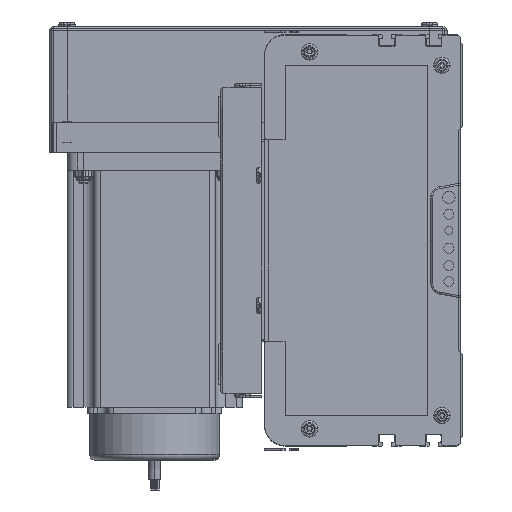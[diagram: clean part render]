
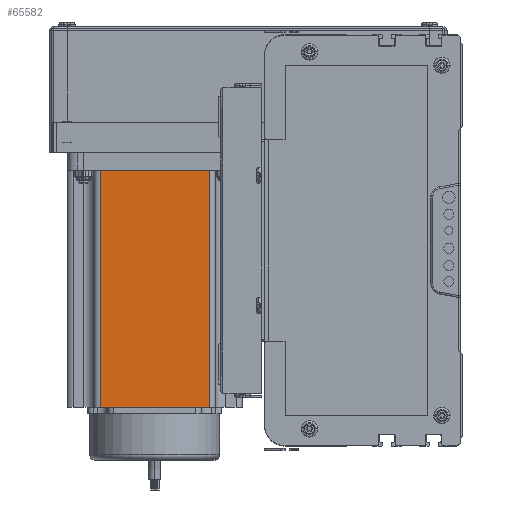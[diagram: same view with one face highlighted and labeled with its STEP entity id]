
A CAD part, left-side view. The second image highlights one B-rep face of the part: STEP entity #65582.
In plain terms, the highlighted planar face has unit normal (-1, 0, 0) as drawn and (0, -1, 0) by its records, which use the part's own axes.
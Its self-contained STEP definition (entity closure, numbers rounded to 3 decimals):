
#65249 = ORIENTED_EDGE ( 'NONE', *, *, #65600, .T. ) ;
#65329 = VERTEX_POINT ( 'NONE', #137433 ) ;
#65339 = ORIENTED_EDGE ( 'NONE', *, *, #65484, .T. ) ;
#65403 = ORIENTED_EDGE ( 'NONE', *, *, #65607, .T. ) ;
#65480 = EDGE_CURVE ( 'NONE', #65482, #65613, #138188, .T. ) ;
#65482 = VERTEX_POINT ( 'NONE', #138281 ) ;
#65484 = EDGE_CURVE ( 'NONE', #65482, #65329, #138024, .T. ) ;
#65535 = EDGE_LOOP ( 'NONE', ( #65403, #65249, #65609, #65339 ) ) ;
#65582 = ADVANCED_FACE ( 'NONE', ( #137813 ), #137960, .F. ) ;
#65584 = VERTEX_POINT ( 'NONE', #137853 ) ;
#65600 = EDGE_CURVE ( 'NONE', #65584, #65613, #137774, .T. ) ;
#65607 = EDGE_CURVE ( 'NONE', #65329, #65584, #138500, .T. ) ;
#65609 = ORIENTED_EDGE ( 'NONE', *, *, #65480, .F. ) ;
#65613 = VERTEX_POINT ( 'NONE', #138946 ) ;
#136512 = DIRECTION ( 'NONE',  ( 0., 0., 1. ) ) ;
#137433 = CARTESIAN_POINT ( 'NONE',  ( 16.16, 0., 0. ) ) ;
#137770 = VECTOR ( 'NONE', #136512, 1000. ) ;
#137772 = CARTESIAN_POINT ( 'NONE',  ( 69.74, 0., 116.5 ) ) ;
#137774 = LINE ( 'NONE', #137772, #137770 ) ;
#137788 = DIRECTION ( 'NONE',  ( 0., 0., 1. ) ) ;
#137812 = DIRECTION ( 'NONE',  ( 0., 1., 0. ) ) ;
#137813 = FACE_OUTER_BOUND ( 'NONE', #65535, .T. ) ;
#137845 = AXIS2_PLACEMENT_3D ( 'NONE', #137915, #137812, #137788 ) ;
#137853 = CARTESIAN_POINT ( 'NONE',  ( 69.74, 0., 0. ) ) ;
#137915 = CARTESIAN_POINT ( 'NONE',  ( 0., 0., 116.5 ) ) ;
#137960 = PLANE ( 'NONE',  #137845 ) ;
#138008 = DIRECTION ( 'NONE',  ( 1., 0., 0. ) ) ;
#138010 = CARTESIAN_POINT ( 'NONE',  ( 0., 0., 116.5 ) ) ;
#138021 = VECTOR ( 'NONE', #138404, 1000. ) ;
#138023 = CARTESIAN_POINT ( 'NONE',  ( 16.16, 0., 116.5 ) ) ;
#138024 = LINE ( 'NONE', #138023, #138021 ) ;
#138025 = VECTOR ( 'NONE', #138008, 1000. ) ;
#138188 = LINE ( 'NONE', #138010, #138025 ) ;
#138281 = CARTESIAN_POINT ( 'NONE',  ( 16.16, 0., 116.5 ) ) ;
#138404 = DIRECTION ( 'NONE',  ( 0., 0., -1. ) ) ;
#138499 = CARTESIAN_POINT ( 'NONE',  ( 0., 0., 0. ) ) ;
#138500 = LINE ( 'NONE', #138499, #138614 ) ;
#138614 = VECTOR ( 'NONE', #138960, 1000. ) ;
#138946 = CARTESIAN_POINT ( 'NONE',  ( 69.74, 0., 116.5 ) ) ;
#138960 = DIRECTION ( 'NONE',  ( 1., 0., 0. ) ) ;
